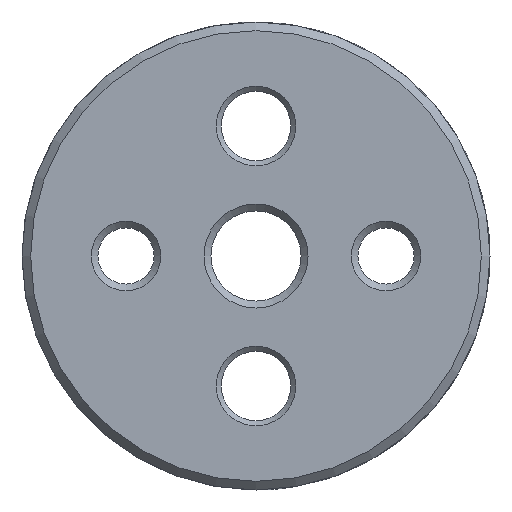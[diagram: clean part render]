
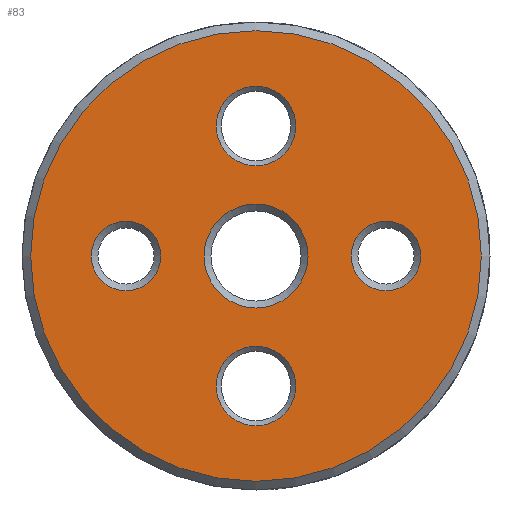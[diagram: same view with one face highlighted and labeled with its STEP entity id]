
A CAD part, front view. The second image highlights one B-rep face of the part: STEP entity #83.
In plain terms, the highlighted planar face has unit normal (0, -1, 0).
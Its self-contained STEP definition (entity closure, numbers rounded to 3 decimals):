
#83 = ADVANCED_FACE( '', ( #130, #131, #132, #133, #134, #135 ), #136, .F. );
#130 = FACE_BOUND( '', #220, .T. );
#131 = FACE_BOUND( '', #221, .T. );
#132 = FACE_BOUND( '', #222, .T. );
#133 = FACE_BOUND( '', #223, .T. );
#134 = FACE_BOUND( '', #224, .T. );
#135 = FACE_OUTER_BOUND( '', #225, .T. );
#136 = PLANE( '', #226 );
#220 = EDGE_LOOP( '', ( #357 ) );
#221 = EDGE_LOOP( '', ( #358 ) );
#222 = EDGE_LOOP( '', ( #359 ) );
#223 = EDGE_LOOP( '', ( #360 ) );
#224 = EDGE_LOOP( '', ( #361 ) );
#225 = EDGE_LOOP( '', ( #362 ) );
#226 = AXIS2_PLACEMENT_3D( '', #363, #364, #365 );
#357 = ORIENTED_EDGE( '', *, *, #527, .F. );
#358 = ORIENTED_EDGE( '', *, *, #528, .F. );
#359 = ORIENTED_EDGE( '', *, *, #529, .F. );
#360 = ORIENTED_EDGE( '', *, *, #530, .F. );
#361 = ORIENTED_EDGE( '', *, *, #531, .F. );
#362 = ORIENTED_EDGE( '', *, *, #532, .T. );
#363 = CARTESIAN_POINT( '', ( 13., 0., 0. ) );
#364 = DIRECTION( '', ( 0., 1., 0. ) );
#365 = DIRECTION( '', ( 0., 0., 1. ) );
#527 = EDGE_CURVE( '', #611, #611, #612, .T. );
#528 = EDGE_CURVE( '', #613, #613, #614, .F. );
#529 = EDGE_CURVE( '', #615, #615, #616, .T. );
#530 = EDGE_CURVE( '', #617, #617, #618, .T. );
#531 = EDGE_CURVE( '', #619, #619, #620, .T. );
#532 = EDGE_CURVE( '', #621, #621, #622, .T. );
#611 = VERTEX_POINT( '', #818 );
#612 = CIRCLE( '', #819, 3. );
#613 = VERTEX_POINT( '', #820 );
#614 = CIRCLE( '', #821, 2. );
#615 = VERTEX_POINT( '', #822 );
#616 = CIRCLE( '', #823, 2.3 );
#617 = VERTEX_POINT( '', #824 );
#618 = CIRCLE( '', #825, 2.3 );
#619 = VERTEX_POINT( '', #826 );
#620 = CIRCLE( '', #827, 2. );
#621 = VERTEX_POINT( '', #828 );
#622 = CIRCLE( '', #829, 13. );
#818 = CARTESIAN_POINT( '', ( 0., 0., -3. ) );
#819 = AXIS2_PLACEMENT_3D( '', #931, #932, #933 );
#820 = CARTESIAN_POINT( '', ( 7.5, 0., 2. ) );
#821 = AXIS2_PLACEMENT_3D( '', #934, #935, #936 );
#822 = CARTESIAN_POINT( '', ( 0., 0., 5.2 ) );
#823 = AXIS2_PLACEMENT_3D( '', #937, #938, #939 );
#824 = CARTESIAN_POINT( '', ( 0., 0., -9.8 ) );
#825 = AXIS2_PLACEMENT_3D( '', #940, #941, #942 );
#826 = CARTESIAN_POINT( '', ( -7.5, 0., -2. ) );
#827 = AXIS2_PLACEMENT_3D( '', #943, #944, #945 );
#828 = CARTESIAN_POINT( '', ( 0., 0., -13. ) );
#829 = AXIS2_PLACEMENT_3D( '', #946, #947, #948 );
#931 = CARTESIAN_POINT( '', ( 0., 0., 0. ) );
#932 = DIRECTION( '', ( 0., -1., 0. ) );
#933 = DIRECTION( '', ( 0., 0., -1. ) );
#934 = CARTESIAN_POINT( '', ( 7.5, 0., 0. ) );
#935 = DIRECTION( '', ( 0., 1., 0. ) );
#936 = DIRECTION( '', ( 0., 0., 1. ) );
#937 = CARTESIAN_POINT( '', ( 0., 0., 7.5 ) );
#938 = DIRECTION( '', ( 0., -1., 0. ) );
#939 = DIRECTION( '', ( 0., 0., -1. ) );
#940 = CARTESIAN_POINT( '', ( 0., 0., -7.5 ) );
#941 = DIRECTION( '', ( 0., -1., 0. ) );
#942 = DIRECTION( '', ( 0., 0., -1. ) );
#943 = CARTESIAN_POINT( '', ( -7.5, 0., 0. ) );
#944 = DIRECTION( '', ( 0., -1., 0. ) );
#945 = DIRECTION( '', ( 0., 0., -1. ) );
#946 = CARTESIAN_POINT( '', ( 0., 0., 0. ) );
#947 = DIRECTION( '', ( 0., -1., 0. ) );
#948 = DIRECTION( '', ( 0., 0., -1. ) );
